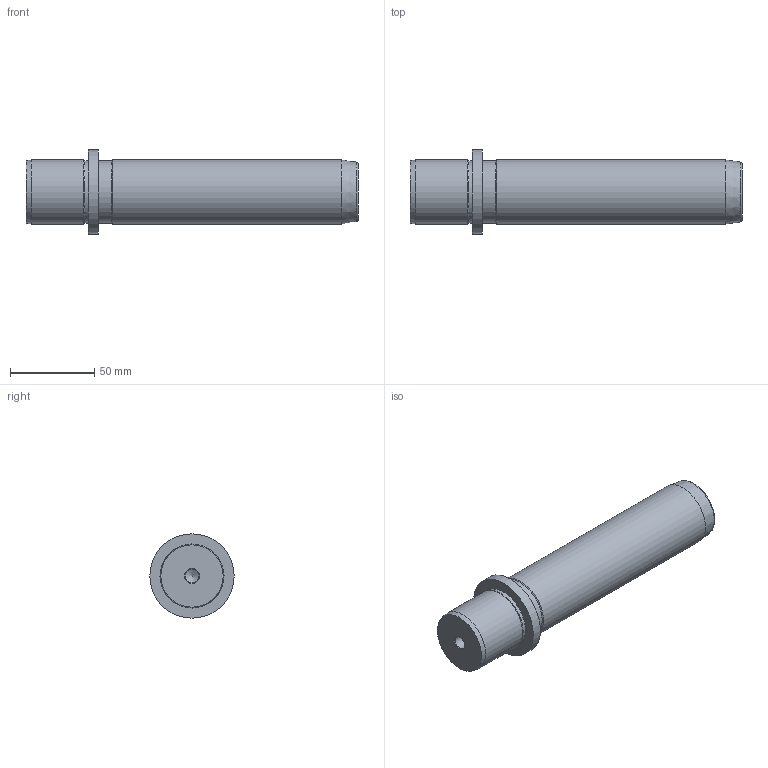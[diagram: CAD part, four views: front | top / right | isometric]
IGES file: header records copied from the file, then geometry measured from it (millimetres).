
Global section: file name: CEAQ38160.ipt; native system: Autodesk Inventor 2021; preprocessor: unknown; author: SM; date: 20211206.133553; units: millimetre
Bounding box: 197 x 50 x 50 mm (x, y, z)
Volume: 224226.9 mm3; surface area: 28823.5 mm2
Topology: 1 solids, 1 shells, 20 faces, 45 edges, 29 vertices
Faces by surface type: revolution 5, cylinder 5, cone 4, plane 4, bspline 2
Full cylindrical faces by diameter (mm): 37 x2, 38 x2, 50 x1
